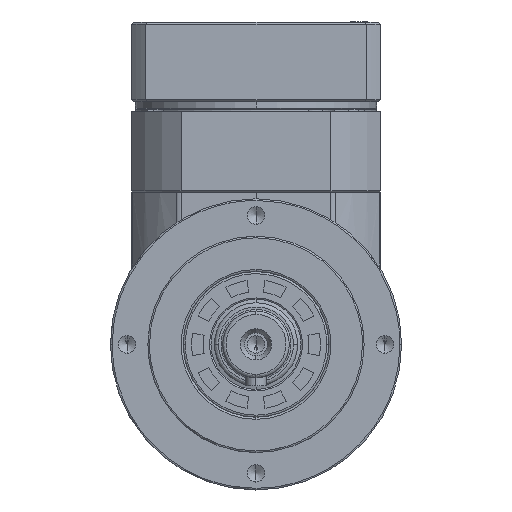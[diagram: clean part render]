
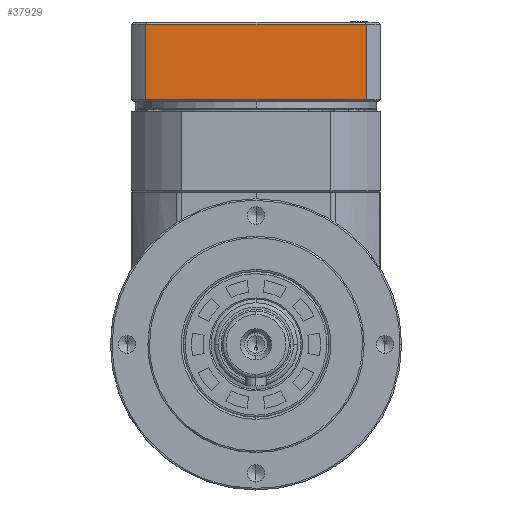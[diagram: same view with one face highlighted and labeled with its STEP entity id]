
A CAD part, left-side view. The second image highlights one B-rep face of the part: STEP entity #37929.
In plain terms, the highlighted planar face has unit normal (-1, 0, 0).
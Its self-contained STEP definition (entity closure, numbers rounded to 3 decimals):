
#695 = CARTESIAN_POINT ( 'NONE',  ( -66.465, -0.462, 129.831 ) ) ;
#1725 = PLANE ( 'NONE',  #58612 ) ;
#4275 = EDGE_LOOP ( 'NONE', ( #22477, #15149, #23604, #16693 ) ) ;
#5082 = CARTESIAN_POINT ( 'NONE',  ( -66.465, -26.92, 111.631 ) ) ;
#6015 = EDGE_CURVE ( 'NONE', #32141, #51705, #21076, .T. ) ;
#6445 = VECTOR ( 'NONE', #19731, 1000. ) ;
#6882 = DIRECTION ( 'NONE',  ( -1., 0., 0. ) ) ;
#11742 = FACE_OUTER_BOUND ( 'NONE', #4275, .T. ) ;
#13420 = EDGE_CURVE ( 'NONE', #51705, #28140, #48642, .T. ) ;
#15149 = ORIENTED_EDGE ( 'NONE', *, *, #6015, .T. ) ;
#15955 = CARTESIAN_POINT ( 'NONE',  ( -66.465, -0.462, 111.631 ) ) ;
#16693 = ORIENTED_EDGE ( 'NONE', *, *, #22530, .F. ) ;
#18419 = LINE ( 'NONE', #5082, #42498 ) ;
#19731 = DIRECTION ( 'NONE',  ( 0., 0., 1. ) ) ;
#21076 = LINE ( 'NONE', #51865, #58837 ) ;
#21299 = DIRECTION ( 'NONE',  ( 0., 1., 0. ) ) ;
#21423 = CARTESIAN_POINT ( 'NONE',  ( -66.465, -0.462, 54.331 ) ) ;
#22477 = ORIENTED_EDGE ( 'NONE', *, *, #45665, .T. ) ;
#22530 = EDGE_CURVE ( 'NONE', #42612, #28140, #24889, .T. ) ;
#23604 = ORIENTED_EDGE ( 'NONE', *, *, #13420, .T. ) ;
#23999 = CARTESIAN_POINT ( 'NONE',  ( -66.465, -0.462, 105.331 ) ) ;
#24889 = LINE ( 'NONE', #23999, #6445 ) ;
#28140 = VERTEX_POINT ( 'NONE', #695 ) ;
#30802 = DIRECTION ( 'NONE',  ( 0., 0., 1. ) ) ;
#32141 = VERTEX_POINT ( 'NONE', #59355 ) ;
#37929 = ADVANCED_FACE ( 'NONE', ( #11742 ), #1725, .T. ) ;
#42498 = VECTOR ( 'NONE', #46328, 1000. ) ;
#42612 = VERTEX_POINT ( 'NONE', #15955 ) ;
#45070 = CARTESIAN_POINT ( 'NONE',  ( -66.465, -53.377, 129.831 ) ) ;
#45665 = EDGE_CURVE ( 'NONE', #42612, #32141, #18419, .T. ) ;
#46328 = DIRECTION ( 'NONE',  ( 0., -1., 0. ) ) ;
#47859 = DIRECTION ( 'NONE',  ( 0., 0., 1. ) ) ;
#48642 = LINE ( 'NONE', #57758, #51598 ) ;
#51598 = VECTOR ( 'NONE', #21299, 1000. ) ;
#51705 = VERTEX_POINT ( 'NONE', #45070 ) ;
#51865 = CARTESIAN_POINT ( 'NONE',  ( -66.465, -53.377, 54.331 ) ) ;
#57758 = CARTESIAN_POINT ( 'NONE',  ( -66.465, -0.462, 129.831 ) ) ;
#58612 = AXIS2_PLACEMENT_3D ( 'NONE', #21423, #6882, #47859 ) ;
#58837 = VECTOR ( 'NONE', #30802, 1000. ) ;
#59355 = CARTESIAN_POINT ( 'NONE',  ( -66.465, -53.377, 111.631 ) ) ;
